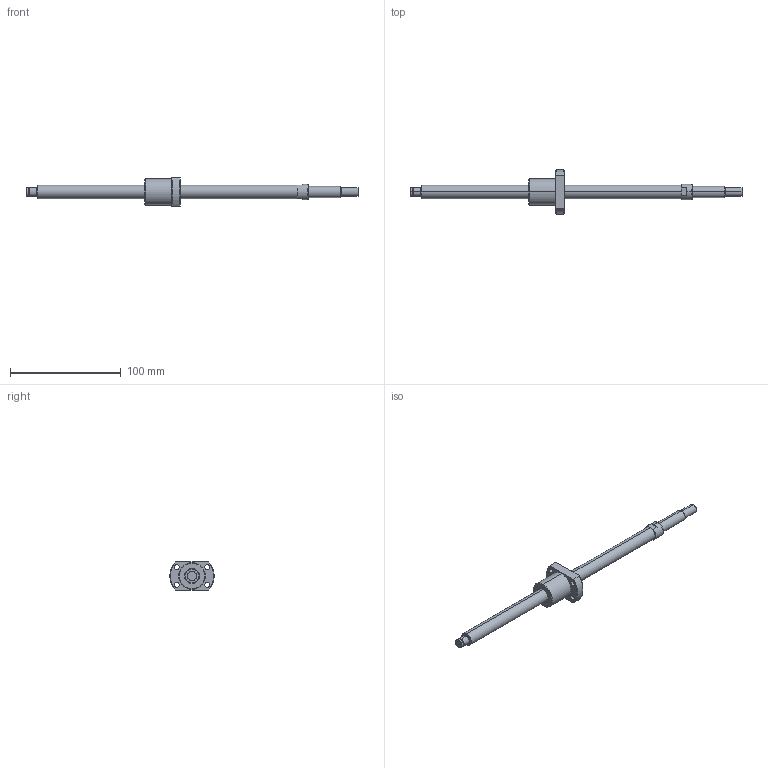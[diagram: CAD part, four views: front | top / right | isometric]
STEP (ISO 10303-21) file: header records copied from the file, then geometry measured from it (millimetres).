
FILE_DESCRIPTION (( 'STEP AP214' ), '1' );
FILE_NAME ('NSGF1205-230R300C_B_X.STEP', '2026-08-25T19:15:32', ( '' ), ( '' ), 'SwSTEP 2.0', 'SolidWorks 2025', '' );
FILE_SCHEMA (( 'AUTOMOTIVE_DESIGN' ));
Length unit declared in the file: millimetre
Products named in the file (3): NSG1205Z-230R30029_(T-S_T-B_2)-2^NSGF1205-230R300C_B_X; NSGF1205Z-1_5^NSGF1205-230R300C_B_X; NSGF1205-230R300C_B_X
Assembly tree (2 placements, depth 2):
  NSGF1205-230R300C_B_X
    NSG1205Z-230R30029_(T-S_T-B_2)-2^NSGF1205-230R300C_B_X
    NSGF1205Z-1_5^NSGF1205-230R300C_B_X
Bounding box: 300 x 39.88 x 26 mm (x, y, z)
Volume: 44178.2 mm3; surface area: 17281.8 mm2
Topology: 2 solids, 2 shells, 65 faces, 146 edges, 92 vertices
Faces by surface type: cylinder 30, plane 19, cone 12, torus 4
Entity records: 1974 total; most frequent: DIRECTION 362, CARTESIAN_POINT 332, ORIENTED_EDGE 292, AXIS2_PLACEMENT_3D 154, EDGE_CURVE 146, VERTEX_POINT 92, CIRCLE 84, EDGE_LOOP 82
